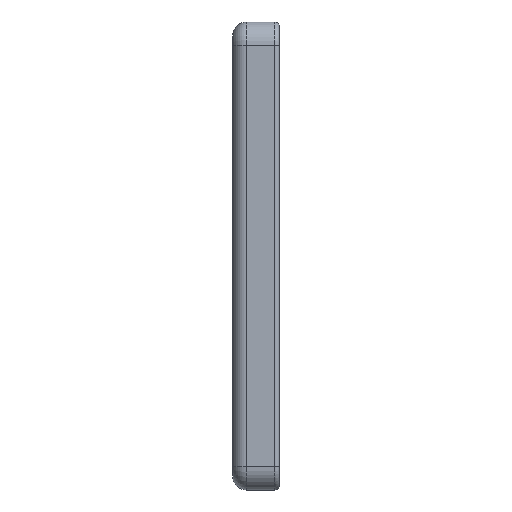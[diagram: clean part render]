
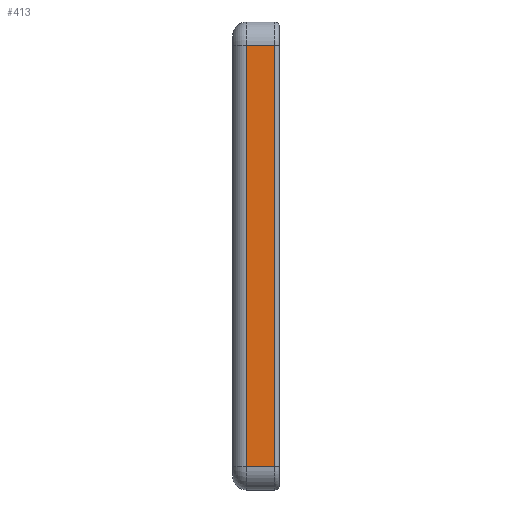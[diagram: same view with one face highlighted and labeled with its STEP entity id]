
A CAD part, left-side view. The second image highlights one B-rep face of the part: STEP entity #413.
In plain terms, the highlighted planar face has unit normal (-1, 0, 0).
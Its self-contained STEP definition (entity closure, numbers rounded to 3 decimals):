
#189 = CARTESIAN_POINT ( 'NONE',  ( -50., 7., -45. ) ) ;
#196 = CARTESIAN_POINT ( 'NONE',  ( -50., 1., -45. ) ) ;
#201 = CARTESIAN_POINT ( 'NONE',  ( -50., 1., 45. ) ) ;
#202 = CARTESIAN_POINT ( 'NONE',  ( -50., 7., 45. ) ) ;
#382 = EDGE_LOOP ( 'NONE', ( #716, #717, #718, #719 ) ) ;
#413 = ADVANCED_FACE ( 'NONE', ( #845 ), #467, .F. ) ;
#464 = CARTESIAN_POINT ( 'NONE',  ( -50., 10., -50. ) ) ;
#467 = PLANE ( 'NONE',  #593 ) ;
#472 = DIRECTION ( 'NONE',  ( 1., 0., 0. ) ) ;
#473 = DIRECTION ( 'NONE',  ( 0., 0., -1. ) ) ;
#495 = EDGE_CURVE ( 'NONE', #748, #749, #1020, .T. ) ;
#496 = EDGE_CURVE ( 'NONE', #749, #754, #1014, .T. ) ;
#497 = EDGE_CURVE ( 'NONE', #754, #755, #1024, .T. ) ;
#498 = EDGE_CURVE ( 'NONE', #755, #748, #1026, .T. ) ;
#593 = AXIS2_PLACEMENT_3D ( 'NONE', #464, #472, #473 ) ;
#716 = ORIENTED_EDGE ( 'NONE', *, *, #495, .T. ) ;
#717 = ORIENTED_EDGE ( 'NONE', *, *, #496, .T. ) ;
#718 = ORIENTED_EDGE ( 'NONE', *, *, #497, .T. ) ;
#719 = ORIENTED_EDGE ( 'NONE', *, *, #498, .T. ) ;
#748 = VERTEX_POINT ( 'NONE', #189 ) ;
#749 = VERTEX_POINT ( 'NONE', #196 ) ;
#754 = VERTEX_POINT ( 'NONE', #201 ) ;
#755 = VERTEX_POINT ( 'NONE', #202 ) ;
#845 = FACE_OUTER_BOUND ( 'NONE', #382, .T. ) ;
#1014 = LINE ( 'NONE', #1242, #1025 ) ;
#1020 = LINE ( 'NONE', #1192, #1023 ) ;
#1023 = VECTOR ( 'NONE', #1255, 1000. ) ;
#1024 = LINE ( 'NONE', #1257, #1027 ) ;
#1025 = VECTOR ( 'NONE', #1256, 1000. ) ;
#1026 = LINE ( 'NONE', #1259, #1029 ) ;
#1027 = VECTOR ( 'NONE', #1258, 1000. ) ;
#1029 = VECTOR ( 'NONE', #1260, 1000. ) ;
#1192 = CARTESIAN_POINT ( 'NONE',  ( -50., 10., -45. ) ) ;
#1242 = CARTESIAN_POINT ( 'NONE',  ( -50., 1., -50. ) ) ;
#1255 = DIRECTION ( 'NONE',  ( 0., -1., 0. ) ) ;
#1256 = DIRECTION ( 'NONE',  ( 0., 0., 1. ) ) ;
#1257 = CARTESIAN_POINT ( 'NONE',  ( -50., 10., 45. ) ) ;
#1258 = DIRECTION ( 'NONE',  ( 0., 1., 0. ) ) ;
#1259 = CARTESIAN_POINT ( 'NONE',  ( -50., 7., -45. ) ) ;
#1260 = DIRECTION ( 'NONE',  ( 0., 0., -1. ) ) ;
